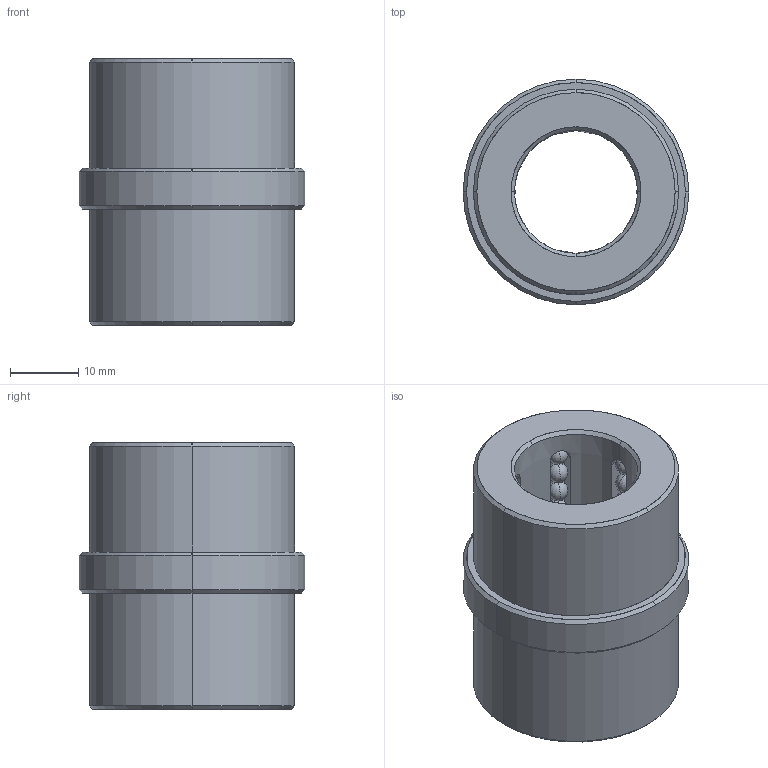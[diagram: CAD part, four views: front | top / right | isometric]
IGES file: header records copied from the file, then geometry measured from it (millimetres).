
Start section: START RECORD GO HERE.
Global section: file name: B844181722.igs; native system: DASSAULT SYSTEMES CATIA V5 R20 - www.3ds.com; preprocessor: CATIA Version 5 Release 20 ; author: Utente; organization: NB04-ASUS; date: 20200419.200746; units: millimetre
Bounding box: 33 x 33 x 39 mm (x, y, z)
Surface area: 9892.6 mm2 (no closed solid volume)
Topology: 0 solids, 0 shells, 306 faces, 1284 edges, 804 vertices
Faces by surface type: revolution 284, plane 22
